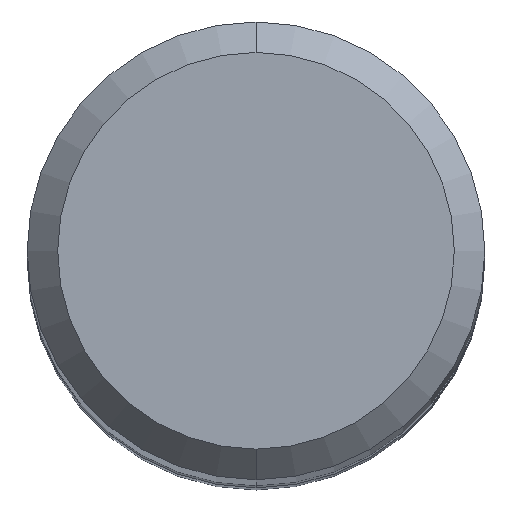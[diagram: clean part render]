
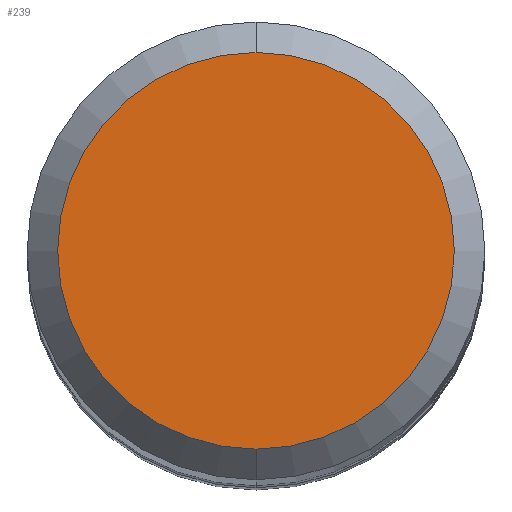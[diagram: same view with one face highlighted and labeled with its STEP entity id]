
A CAD part, top view. The second image highlights one B-rep face of the part: STEP entity #239.
In plain terms, the highlighted planar face has unit normal (0, 0, 1).
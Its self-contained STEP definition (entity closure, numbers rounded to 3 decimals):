
#239=ADVANCED_FACE('',(#628),#629,.T.);
#247=VERTEX_POINT('',#637);
#287=VERTEX_POINT('',#681);
#289=EDGE_CURVE('',#247,#287,#683,.T.);
#403=EDGE_CURVE('',#287,#247,#811,.T.);
#628=FACE_OUTER_BOUND('',#1055,.T.);
#629=PLANE('',#1056);
#637=CARTESIAN_POINT('',(0.,-2.6,0.0));
#681=CARTESIAN_POINT('',(0.0,2.6,0.0));
#683=CIRCLE('',#1183,2.6);
#811=CIRCLE('',#1388,2.6);
#1055=EDGE_LOOP('',(#1798,#1799));
#1056=AXIS2_PLACEMENT_3D('',#1800,#1801,#1802);
#1183=AXIS2_PLACEMENT_3D('',#1863,#1864,#1865);
#1388=AXIS2_PLACEMENT_3D('',#2034,#2035,#2036);
#1798=ORIENTED_EDGE('',*,*,#403,.F.);
#1799=ORIENTED_EDGE('',*,*,#289,.F.);
#1800=CARTESIAN_POINT('',(0.0,1.3,0.0));
#1801=DIRECTION('',(-0.0,0.0,1.0));
#1802=DIRECTION('',(0.0,-1.0,0.0));
#1863=CARTESIAN_POINT('',(0.0,0.0,0.0));
#1864=DIRECTION('',(0.0,0.0,-1.0));
#1865=DIRECTION('',(0.0,1.0,0.0));
#2034=CARTESIAN_POINT('',(0.0,0.0,0.0));
#2035=DIRECTION('',(0.0,0.0,-1.0));
#2036=DIRECTION('',(0.0,1.0,0.0));
